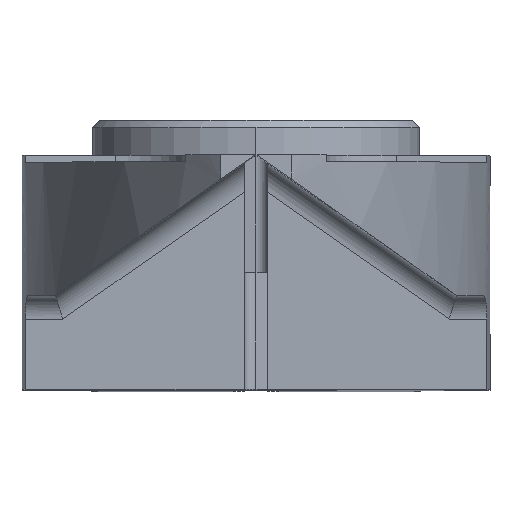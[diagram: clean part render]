
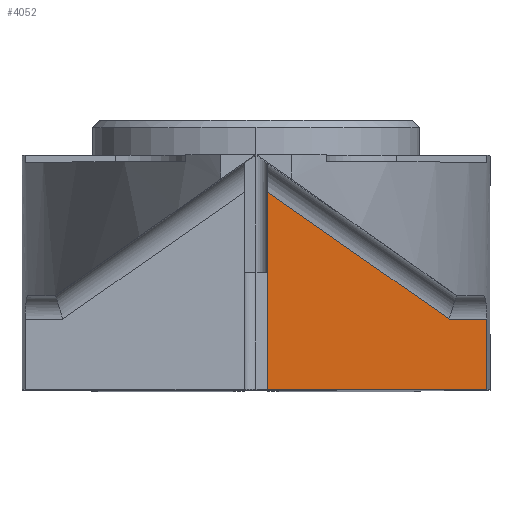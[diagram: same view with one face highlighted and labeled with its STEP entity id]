
A CAD part, top view. The second image highlights one B-rep face of the part: STEP entity #4052.
In plain terms, the highlighted planar face has unit normal (0, 0, 1).
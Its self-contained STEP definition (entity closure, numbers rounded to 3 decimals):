
#63 = CARTESIAN_POINT ( 'NONE',  ( 0.5, 5., 13. ) ) ;
#402 = VECTOR ( 'NONE', #3208, 1000. ) ;
#478 = CARTESIAN_POINT ( 'NONE',  ( 0.5, 8.429, 13. ) ) ;
#488 = ORIENTED_EDGE ( 'NONE', *, *, #3658, .F. ) ;
#533 = VERTEX_POINT ( 'NONE', #3298 ) ;
#828 = VECTOR ( 'NONE', #4263, 1000. ) ;
#979 = VECTOR ( 'NONE', #2940, 1000. ) ;
#1083 = CARTESIAN_POINT ( 'NONE',  ( 8.254, 3., 13. ) ) ;
#1097 = LINE ( 'NONE', #4402, #979 ) ;
#1113 = ORIENTED_EDGE ( 'NONE', *, *, #1313, .T. ) ;
#1132 = CARTESIAN_POINT ( 'NONE',  ( 9.857, 5., 13. ) ) ;
#1313 = EDGE_CURVE ( 'NONE', #4405, #2180, #1558, .T. ) ;
#1357 = ORIENTED_EDGE ( 'NONE', *, *, #2733, .T. ) ;
#1360 = DIRECTION ( 'NONE',  ( 1., 0., 0. ) ) ;
#1558 = LINE ( 'NONE', #4033, #3300 ) ;
#1999 = EDGE_CURVE ( 'NONE', #3968, #2530, #1097, .T. ) ;
#2025 = PLANE ( 'NONE',  #2448 ) ;
#2180 = VERTEX_POINT ( 'NONE', #478 ) ;
#2373 = ORIENTED_EDGE ( 'NONE', *, *, #1999, .F. ) ;
#2448 = AXIS2_PLACEMENT_3D ( 'NONE', #4451, #3444, #1360 ) ;
#2530 = VERTEX_POINT ( 'NONE', #3338 ) ;
#2677 = CARTESIAN_POINT ( 'NONE',  ( 9.857, 0., 13. ) ) ;
#2694 = LINE ( 'NONE', #1132, #828 ) ;
#2697 = EDGE_LOOP ( 'NONE', ( #2373, #488, #1357, #1113, #3990 ) ) ;
#2720 = EDGE_CURVE ( 'NONE', #2530, #2180, #4312, .T. ) ;
#2733 = EDGE_CURVE ( 'NONE', #533, #4405, #3069, .T. ) ;
#2940 = DIRECTION ( 'NONE',  ( -1., 0., 0. ) ) ;
#2953 = CARTESIAN_POINT ( 'NONE',  ( 5.179, 3., 13. ) ) ;
#3069 = LINE ( 'NONE', #2953, #402 ) ;
#3182 = VECTOR ( 'NONE', #3292, 1000. ) ;
#3208 = DIRECTION ( 'NONE',  ( -1., 0., 0. ) ) ;
#3292 = DIRECTION ( 'NONE',  ( 0., 1., 0. ) ) ;
#3298 = CARTESIAN_POINT ( 'NONE',  ( 9.857, 3., 13. ) ) ;
#3300 = VECTOR ( 'NONE', #4161, 1000. ) ;
#3338 = CARTESIAN_POINT ( 'NONE',  ( 0.5, 0., 13. ) ) ;
#3371 = FACE_OUTER_BOUND ( 'NONE', #2697, .T. ) ;
#3444 = DIRECTION ( 'NONE',  ( 0., 0., 1. ) ) ;
#3658 = EDGE_CURVE ( 'NONE', #533, #3968, #2694, .T. ) ;
#3968 = VERTEX_POINT ( 'NONE', #2677 ) ;
#3990 = ORIENTED_EDGE ( 'NONE', *, *, #2720, .F. ) ;
#4033 = CARTESIAN_POINT ( 'NONE',  ( 8.254, 3., 13. ) ) ;
#4052 = ADVANCED_FACE ( 'NONE', ( #3371 ), #2025, .T. ) ;
#4161 = DIRECTION ( 'NONE',  ( -0.819, 0.574, 0. ) ) ;
#4263 = DIRECTION ( 'NONE',  ( 0., -1., 0. ) ) ;
#4312 = LINE ( 'NONE', #63, #3182 ) ;
#4402 = CARTESIAN_POINT ( 'NONE',  ( 5.25, 0., 13. ) ) ;
#4405 = VERTEX_POINT ( 'NONE', #1083 ) ;
#4451 = CARTESIAN_POINT ( 'NONE',  ( -0.436, -0.843, 13. ) ) ;
